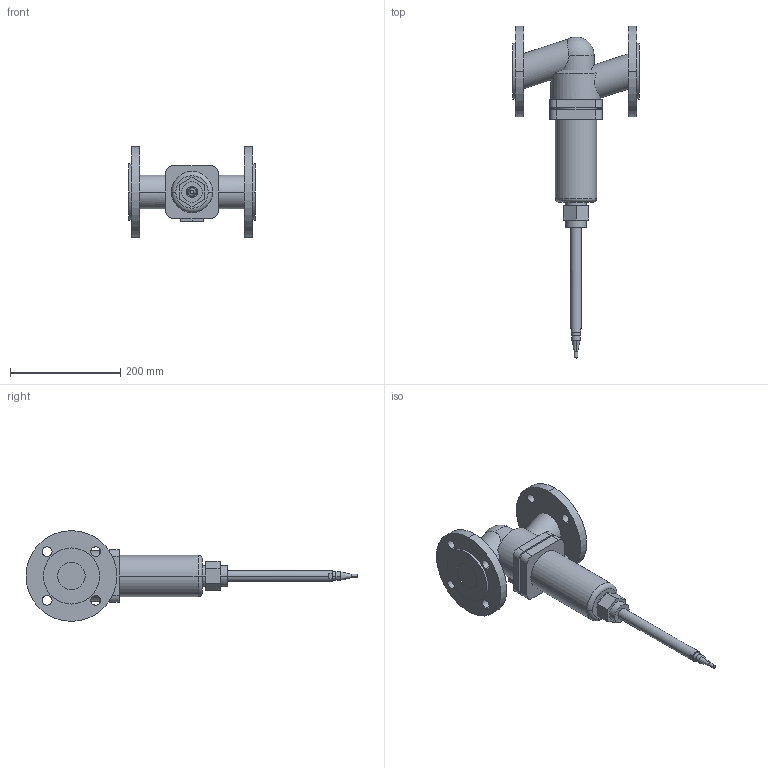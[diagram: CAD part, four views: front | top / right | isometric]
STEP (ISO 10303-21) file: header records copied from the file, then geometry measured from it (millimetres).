
FILE_DESCRIPTION(('CoCreate Modeling STEP Export'),'2;1');
FILE_NAME('c000001235.stp','2011-09-21T 8:38:57',(''),(''),'CoCreate Modeling STEP processor for AP214 (Solid Model)','CoCreate Modeling 17.0 01-Apr-2010 (C) Parametric Technology GmbH','');
FILE_SCHEMA(('AUTOMOTIVE_DESIGN { 1 0 10303 214 1 1 1 1 }'));
Length unit declared in the file: millimetre
Products named in the file (1): 1
Bounding box: 230 x 603.44 x 165 mm (x, y, z)
Volume: 2704798.2 mm3; surface area: 240187.4 mm2
Topology: 1 solids, 1 shells, 120 faces, 295 edges, 194 vertices
Faces by surface type: cylinder 60, plane 52, cone 4, torus 2, sphere 2
Entity records: 5785 total; most frequent: CARTESIAN_POINT 2138, ORIENTED_EDGE 586, DIRECTION 493, EDGE_CURVE 293, VERTEX_POINT 194, AXIS2_PLACEMENT_3D 174, EDGE_LOOP 155, VECTOR 145
